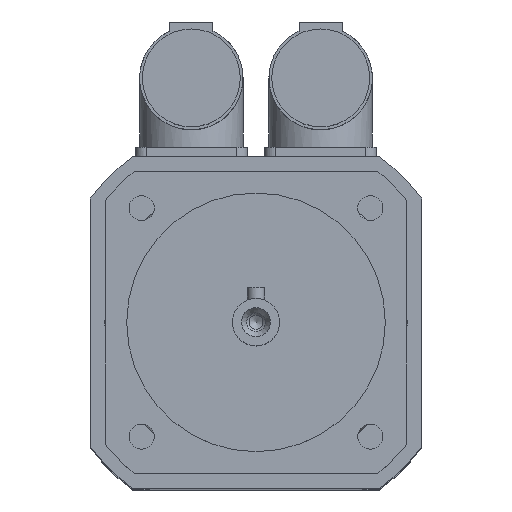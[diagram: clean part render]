
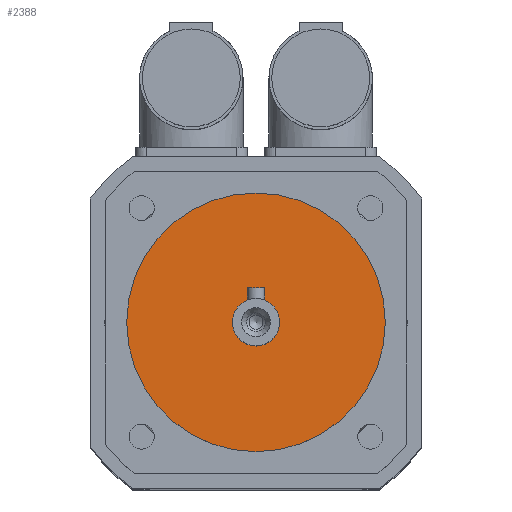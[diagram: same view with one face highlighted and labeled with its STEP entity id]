
A CAD part, top view. The second image highlights one B-rep face of the part: STEP entity #2388.
In plain terms, the highlighted planar face has unit normal (0, 0, 1).
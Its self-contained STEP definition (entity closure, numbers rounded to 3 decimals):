
#484=PLANE('',#2572);
#601=FACE_BOUND('',#819,.T.);
#665=FACE_OUTER_BOUND('',#818,.T.);
#818=EDGE_LOOP('',(#1867));
#819=EDGE_LOOP('',(#1868));
#965=CIRCLE('',#2571,5.5);
#966=CIRCLE('',#2573,30.);
#1130=VERTEX_POINT('',#3794);
#1131=VERTEX_POINT('',#3797);
#1405=EDGE_CURVE('',#1130,#1130,#965,.T.);
#1406=EDGE_CURVE('',#1131,#1131,#966,.T.);
#1867=ORIENTED_EDGE('',*,*,#1406,.F.);
#1868=ORIENTED_EDGE('',*,*,#1405,.T.);
#2388=ADVANCED_FACE('',(#665,#601),#484,.T.);
#2571=AXIS2_PLACEMENT_3D('',#3795,#2996,#2997);
#2572=AXIS2_PLACEMENT_3D('',#3796,#2998,#2999);
#2573=AXIS2_PLACEMENT_3D('',#3798,#3000,#3001);
#2996=DIRECTION('center_axis',(0.,0.,-1.));
#2997=DIRECTION('ref_axis',(1.,0.,0.));
#2998=DIRECTION('center_axis',(0.,0.,1.));
#2999=DIRECTION('ref_axis',(1.,0.,0.));
#3000=DIRECTION('center_axis',(0.,0.,-1.));
#3001=DIRECTION('ref_axis',(1.,0.,0.));
#3794=CARTESIAN_POINT('',(0.,5.5,211.));
#3795=CARTESIAN_POINT('Origin',(0.,0.,211.));
#3796=CARTESIAN_POINT('Origin',(0.,30.,211.));
#3797=CARTESIAN_POINT('',(0.,30.,211.));
#3798=CARTESIAN_POINT('Origin',(0.,0.,211.));
